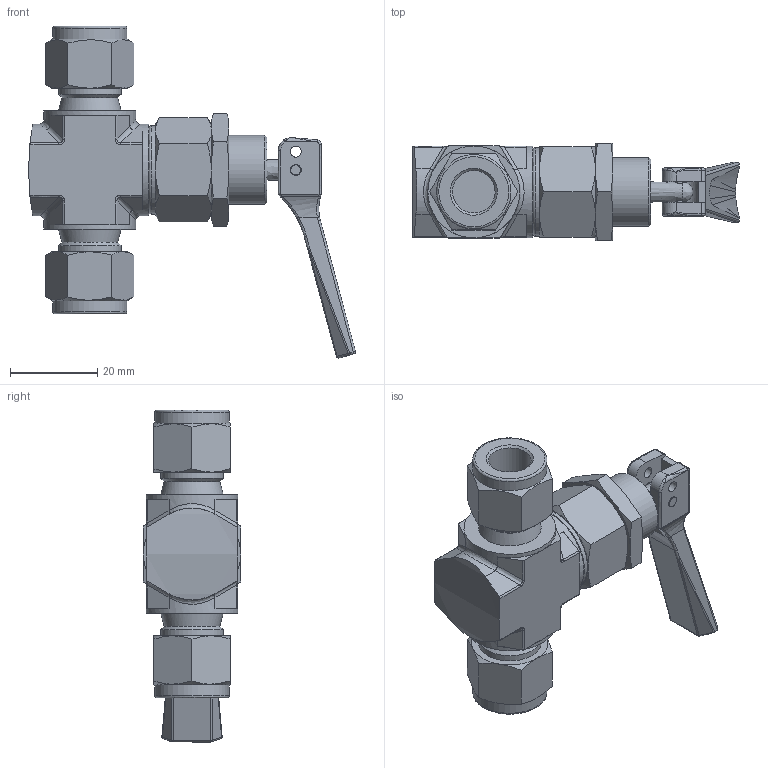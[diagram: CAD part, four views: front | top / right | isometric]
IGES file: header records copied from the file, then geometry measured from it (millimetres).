
Global section: file name: STV3-S6; native system: Autodesk Inventor 2016; preprocessor: unknown; author: 이승민,,11,0; organization: 20161227.233239; date: 20161229.080800; units: millimetre
Bounding box: 74.73 x 22.2 x 75.9 mm (x, y, z)
Volume: 28637.8 mm3; surface area: 14767 mm2
Topology: 6 solids, 6 shells, 312 faces, 769 edges, 479 vertices
Faces by surface type: bspline 312
